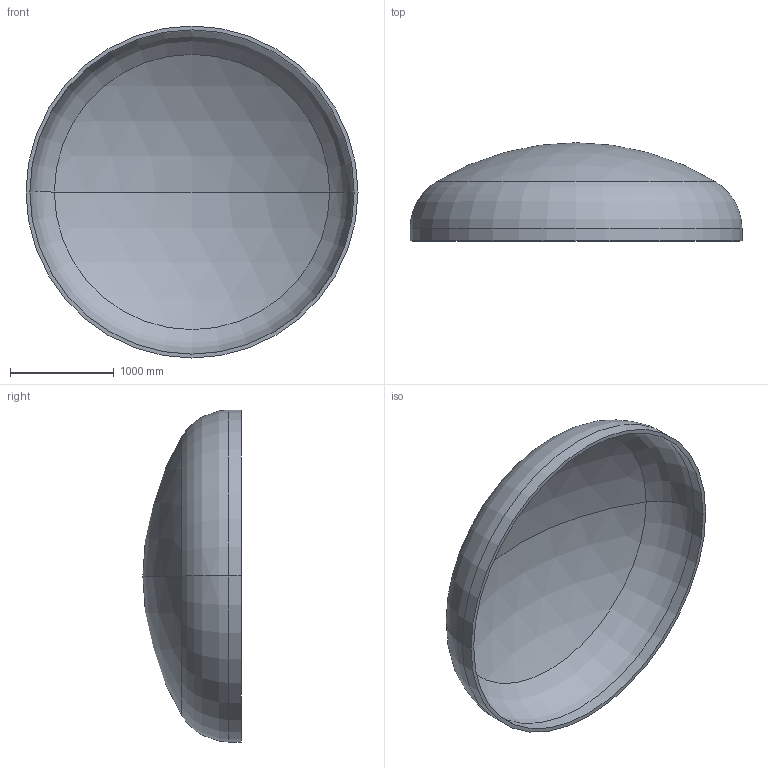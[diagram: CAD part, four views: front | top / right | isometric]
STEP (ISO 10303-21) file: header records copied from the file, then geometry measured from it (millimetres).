
FILE_DESCRIPTION (( 'STEP AP203' ), '1' );
FILE_NAME ('DIN 28013 Korbbogenform_-_Boden DIN 28013 - 3200 x 120 - I - s=37.step', '2016-07-01T18:34:33', ( '' ), ( '' ), 'SwSTEP 2.0', 'SolidWorks 2013', '' );
FILE_SCHEMA (( 'CONFIG_CONTROL_DESIGN' ));
Length unit declared in the file: millimetre
Products named in the file (1): DIN 28013 Korbbogenform_-_Boden DIN 28013 - 3200 x 120 - I - s=37
Bounding box: 3200 x 946.81 x 3200 mm (x, y, z)
Volume: 449545799.7 mm3; surface area: 24670295.2 mm2
Topology: 1 solids, 1 shells, 13 faces, 24 edges, 14 vertices
Faces by surface type: torus 4, cylinder 4, sphere 4, plane 1
Entity records: 407 total; most frequent: DIRECTION 72, CARTESIAN_POINT 52, ORIENTED_EDGE 48, AXIS2_PLACEMENT_3D 34, EDGE_CURVE 24, CIRCLE 20, VERTEX_POINT 14, EDGE_LOOP 14
